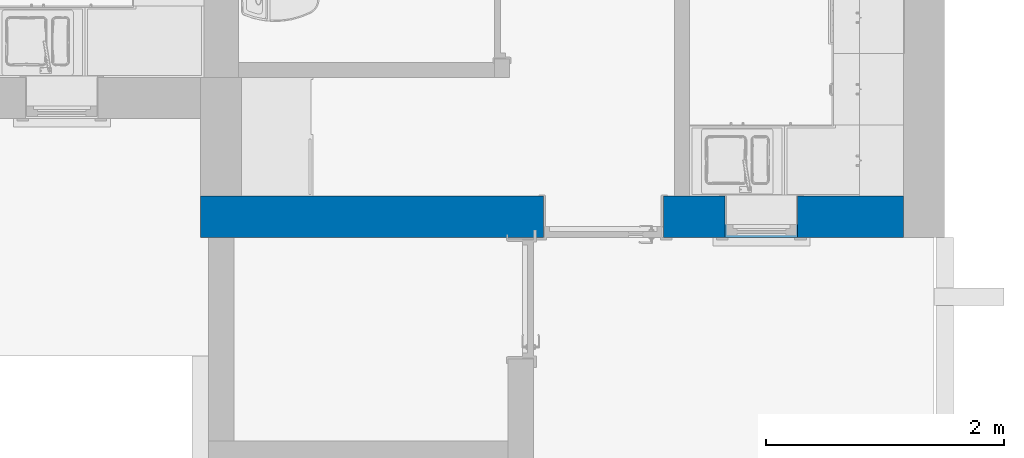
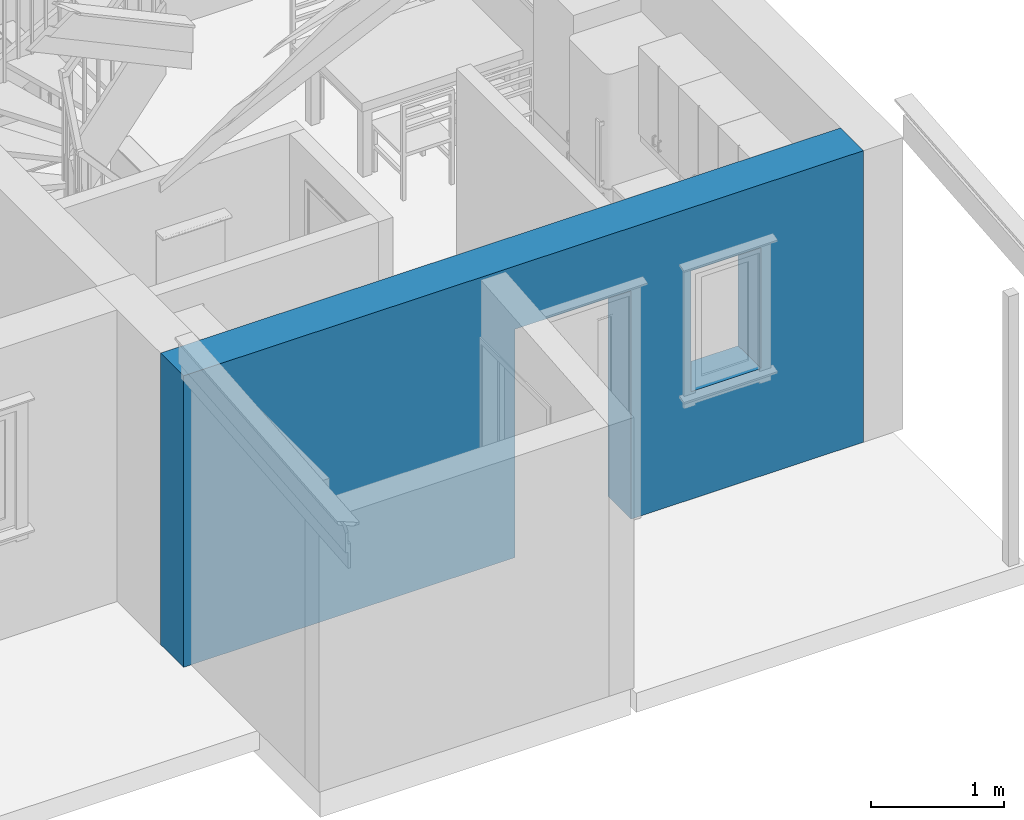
# One storey, part 20 of 65: 1 wall, 2 openings.
"""IFC2X3 building model written with IfcOpenShell, lengths in millimetres."""

from ifc_helpers import new_model, entity, si_unit, converted_unit, direction, frame, frame_2d, origin, place, context, subcontext, project, spatial, rectangle, extrude, material, layer, layer_set, layer_usage, type_object, element, save


model = new_model("IFC2X3")

# Units and contexts
model_context = context("Model", 3, precision=0.01, world=origin(), true_north=direction((0.0, 1.0)))
body_context = subcontext(model_context, "Body", "Model", "MODEL_VIEW")
ifc_project = project(units=[si_unit("LENGTHUNIT", "METRE", prefix="MILLI"), si_unit("AREAUNIT", "SQUARE_METRE"), si_unit("VOLUMEUNIT", "CUBIC_METRE"), converted_unit("PLANEANGLEUNIT", "DEGREE", entity("IfcPlaneAngleMeasure", 0.017453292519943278), si_unit("PLANEANGLEUNIT", "RADIAN"), dimensions=[0, 0, 0, 0, 0, 0, 0])], contexts=[model_context])

# Site, building, storey
site_placement = place(None, origin())
site = spatial("IfcSite", under=ifc_project, at=site_placement, Name="Default", CompositionType="ELEMENT")
building_placement = place(site_placement, origin())
building = spatial("IfcBuilding", under=site, at=building_placement, CompositionType="ELEMENT")
storey_placement = place(building_placement, origin())
storey = spatial("IfcBuildingStorey", under=building, at=storey_placement, Name="Et. 1", CompositionType="ELEMENT", Elevation=0.0)

# Wall, openings
ifc_material_1 = material(Name="Vegg - Stående Kledning_smal - HVIT")
ifc_layer_1 = layer(ifc_material_1, 19.0)
ifc_material_2 = material(Name="Vegg - Utlekting")
ifc_layer_2 = layer(ifc_material_2, 36.0)
ifc_layer_3 = layer(ifc_material_2, 23.0)
ifc_material_3 = material(Name="Vegg - Gips - GU")
ifc_layer_4 = layer(ifc_material_3, 9.0)
ifc_material_4 = material(Name="Vegg - Stender - Isolert")
ifc_layer_5 = layer(ifc_material_4, 198.0)
ifc_material_5 = material(Name="Vegg - Påforing - Isolert")
ifc_layer_6 = layer(ifc_material_5, 48.0)
ifc_material_6 = material(Name="Vegg - Gips - Hvit")
ifc_layer_7 = layer(ifc_material_6, 13.000000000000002)
ifc_layer_set = layer_set([ifc_layer_1, ifc_layer_2, ifc_layer_3, ifc_layer_4, ifc_layer_5, ifc_layer_6, ifc_layer_7], Name="Basic Wall:23-Kv(sm)TIG-19_36_23_9_198_48_13")
ifc_layer_usage = layer_usage(ifc_layer_set, "AXIS2", "NEGATIVE", 173.0)
wall_type = type_object("IfcWallType", Name="Basic Wall:23-Kv(sm)TIG-19_36_23_9_198_48_13", PredefinedType="STANDARD", material=ifc_layer_set)
wall_placement = place(storey_placement, frame((33919.00958675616, 8581.180957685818, 0.0), z_axis=(0.0, 0.0, 1.0), x_axis=(-1.0, 0.0, 0.0)))
wall = element("IfcWallStandardCase", 1, at=wall_placement, inside=storey, type_object=wall_type, material=ifc_layer_usage, Name="Basic Wall:23-Kv(sm)TIG-19_36_23_9_198_48_13", context=body_context, shape_type="SweptSolid", body=[
    extrude(rectangle(XDim=5913.999999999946, YDim=346.0000000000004, at=frame_2d((2956.999999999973, -6.821210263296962e-13), x_axis=(1.0, 0.0))), origin(), (0.0, 0.0, 1.0), 2681.0),
])
opening_1_placement = place(wall_placement, frame((2020.4999999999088, -173.0, 0.0)))
element("IfcOpeningElement", 2, at=opening_1_placement, cuts=wall, Name="YD 1 Glassfelt omramming:10x21M:1", ObjectType="Opening", context=body_context, shape_type="SweptSolid", body=[
    extrude(rectangle(XDim=1010.0000000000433, YDim=2100.000000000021, at=frame_2d((1050.0000000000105, 505.00000000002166), x_axis=(0.0, 1.0))), frame((0.0, 0.0, 0.0), z_axis=(0.0, 1.0, 0.0), x_axis=(0.0, 0.0, 1.0)), (0.0, 0.0, 1.0), 346.0),
])
opening_2_placement = place(wall_placement, frame((890.0, -173.0, 990.0)))
element("IfcOpeningElement", 3, at=opening_2_placement, cuts=wall, Name="Hel Rute Åpningsvindu m omramming:6x11M:1", ObjectType="Opening", context=body_context, shape_type="SweptSolid", body=[
    extrude(rectangle(XDim=609.9999999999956, YDim=1109.9999999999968, at=frame_2d((554.9999999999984, 304.9999999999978), x_axis=(0.0, -1.0))), frame((0.0, 0.0, 0.0), z_axis=(0.0, 1.0, 0.0), x_axis=(0.0, 0.0, 1.0)), (0.0, 0.0, 1.0), 346.0),
])

save(model, "model.ifc")
